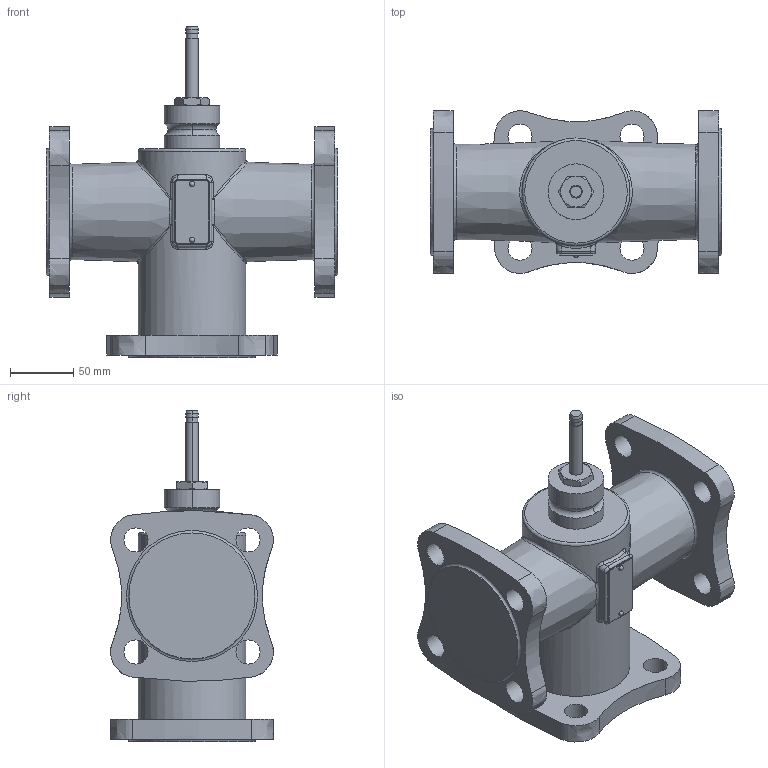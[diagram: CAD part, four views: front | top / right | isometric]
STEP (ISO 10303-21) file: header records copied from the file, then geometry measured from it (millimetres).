
FILE_DESCRIPTION(/* description */ ('Step214'),/* implementation_level */ '2;1');
FILE_NAME(/* name */ 'VXF32_42 DN50 RF.stp',/* time_stamp */ '2015-11-04T12:10:30+01:00',/* author */ (''),/* organization */ ('Siemens'),/* preprocessor_version */ 'ST-DEVELOPER v15',/* originating_system */ 'SIEMENS PLM Software NX 8.5',/* authorisation */ 'for Duktil only');
FILE_SCHEMA (('AUTOMOTIVE_DESIGN { 1 0 10303 214 3 1 1 1 }'));
Length unit declared in the file: millimetre
Products named in the file (1): Volc0CEC07D0ae1o
Bounding box: 230 x 128.38 x 261.5 mm (x, y, z)
Volume: 2206182.1 mm3; surface area: 181224.3 mm2
Topology: 1 solids, 1 shells, 146 faces, 364 edges, 230 vertices
Faces by surface type: cylinder 47, plane 31, extrusion 30, torus 15, bspline 9, cone 8, sphere 6
Full cylindrical faces by diameter (mm): 19 x12, 85 x1, 99.4 x2
Entity records: 6315 total; most frequent: CARTESIAN_POINT 3034, ORIENTED_EDGE 654, DIRECTION 626, EDGE_CURVE 327, AXIS2_PLACEMENT_3D 249, VERTEX_POINT 221, EDGE_LOOP 208, ADVANCED_FACE 146
